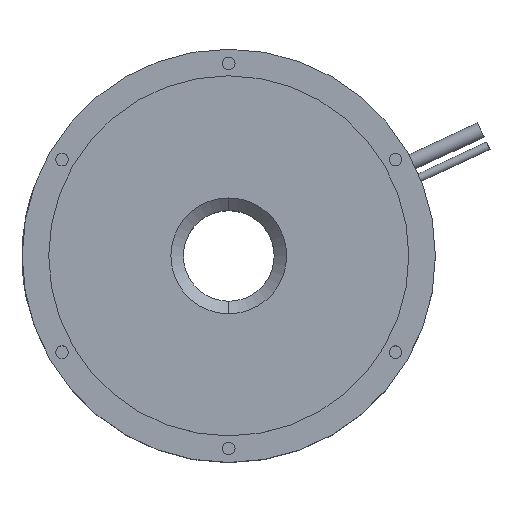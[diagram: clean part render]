
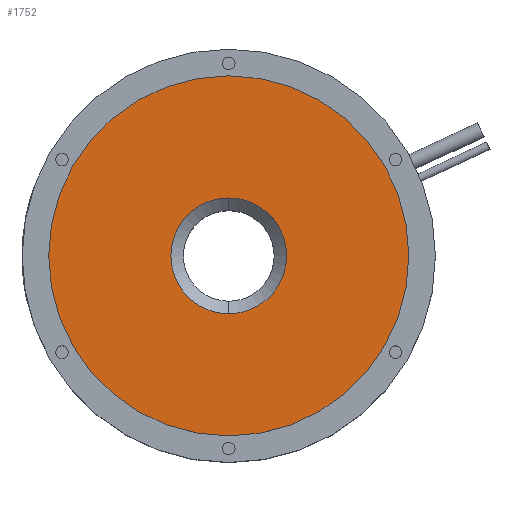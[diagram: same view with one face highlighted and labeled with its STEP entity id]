
A CAD part, top view. The second image highlights one B-rep face of the part: STEP entity #1752.
In plain terms, the highlighted planar face has unit normal (0, 0, 1).
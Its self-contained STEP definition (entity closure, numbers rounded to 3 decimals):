
#1042 = VERTEX_POINT ( 'NONE', #3629 ) ;
#1066 = VERTEX_POINT ( 'NONE', #3657 ) ;
#1074 = EDGE_CURVE ( 'NONE', #1066, #1042, #3693, .T. ) ;
#1611 = EDGE_CURVE ( 'NONE', #1622, #1621, #4791, .T. ) ;
#1621 = VERTEX_POINT ( 'NONE', #4802 ) ;
#1622 = VERTEX_POINT ( 'NONE', #4801 ) ;
#1728 = ORIENTED_EDGE ( 'NONE', *, *, #1074, .T. ) ;
#1729 = EDGE_CURVE ( 'NONE', #1621, #1622, #4979, .T. ) ;
#1731 = ORIENTED_EDGE ( 'NONE', *, *, #1611, .F. ) ;
#1733 = ORIENTED_EDGE ( 'NONE', *, *, #1729, .F. ) ;
#1749 = EDGE_CURVE ( 'NONE', #1042, #1066, #5058, .T. ) ;
#1750 = EDGE_LOOP ( 'NONE', ( #1731, #1733 ) ) ;
#1752 = ADVANCED_FACE ( 'NONE', ( #5049, #5008 ), #5032, .T. ) ;
#1755 = EDGE_LOOP ( 'NONE', ( #1728, #1769 ) ) ;
#1769 = ORIENTED_EDGE ( 'NONE', *, *, #1749, .T. ) ;
#3629 = CARTESIAN_POINT ( 'NONE',  ( 0., 37., 113. ) ) ;
#3657 = CARTESIAN_POINT ( 'NONE',  ( 0., -37., 113. ) ) ;
#3688 = DIRECTION ( 'NONE',  ( 0., -1., 0. ) ) ;
#3689 = DIRECTION ( 'NONE',  ( 0., 0., -1. ) ) ;
#3693 = CIRCLE ( 'NONE', #3706, 37. ) ;
#3701 = CARTESIAN_POINT ( 'NONE',  ( 0., 0., 113. ) ) ;
#3706 = AXIS2_PLACEMENT_3D ( 'NONE', #3701, #3689, #3688 ) ;
#4789 = AXIS2_PLACEMENT_3D ( 'NONE', #4822, #4821, #4820 ) ;
#4791 = CIRCLE ( 'NONE', #4789, 115. ) ;
#4801 = CARTESIAN_POINT ( 'NONE',  ( 0., 115., 113. ) ) ;
#4802 = CARTESIAN_POINT ( 'NONE',  ( 0., -115., 113. ) ) ;
#4820 = DIRECTION ( 'NONE',  ( 0., 1., 0. ) ) ;
#4821 = DIRECTION ( 'NONE',  ( 0., 0., -1. ) ) ;
#4822 = CARTESIAN_POINT ( 'NONE',  ( 0., 0., 113. ) ) ;
#4979 = CIRCLE ( 'NONE', #5031, 115. ) ;
#5005 = AXIS2_PLACEMENT_3D ( 'NONE', #5053, #5020, #5047 ) ;
#5008 = FACE_OUTER_BOUND ( 'NONE', #1750, .T. ) ;
#5009 = CARTESIAN_POINT ( 'NONE',  ( 0., 0., 113. ) ) ;
#5010 = AXIS2_PLACEMENT_3D ( 'NONE', #5009, #5051, #5050 ) ;
#5020 = DIRECTION ( 'NONE',  ( 0., 0., 1. ) ) ;
#5028 = DIRECTION ( 'NONE',  ( 0., 1., 0. ) ) ;
#5029 = DIRECTION ( 'NONE',  ( 0., 0., -1. ) ) ;
#5030 = CARTESIAN_POINT ( 'NONE',  ( 0., 0., 113. ) ) ;
#5031 = AXIS2_PLACEMENT_3D ( 'NONE', #5030, #5029, #5028 ) ;
#5032 = PLANE ( 'NONE',  #5005 ) ;
#5047 = DIRECTION ( 'NONE',  ( 0., -1., 0. ) ) ;
#5049 = FACE_BOUND ( 'NONE', #1755, .T. ) ;
#5050 = DIRECTION ( 'NONE',  ( 0., -1., 0. ) ) ;
#5051 = DIRECTION ( 'NONE',  ( 0., 0., -1. ) ) ;
#5053 = CARTESIAN_POINT ( 'NONE',  ( 0., -29., 113. ) ) ;
#5058 = CIRCLE ( 'NONE', #5010, 37. ) ;
